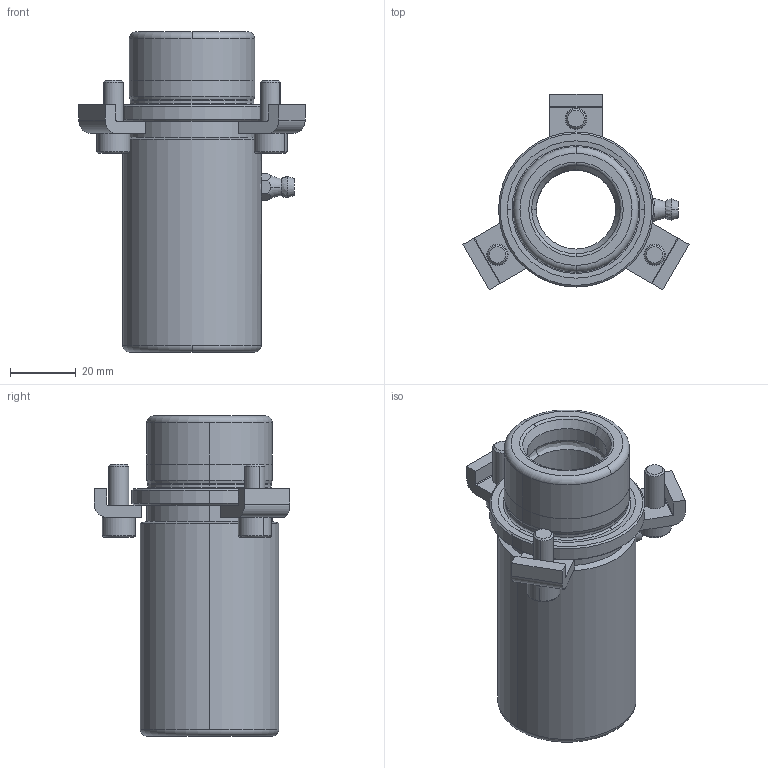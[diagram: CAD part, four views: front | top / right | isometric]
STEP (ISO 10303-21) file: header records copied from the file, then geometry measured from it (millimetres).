
FILE_DESCRIPTION((''),'2;1');
FILE_NAME('B10_024_075.stp','2008-11-04T16:52:06',(''),(''),'Mechanical Desktop 2009','Mechanical Desktop 2009',', , ');
FILE_SCHEMA(('CONFIG_CONTROL_DESIGN'));
Length unit declared in the file: millimetre
Products named in the file (2): Product; blmdl1
Assembly tree (1 placements, depth 2):
  Product
    blmdl1
Bounding box: 68.57 x 59.38 x 97 mm (x, y, z)
Volume: 89778.8 mm3; surface area: 27631.2 mm2
Topology: 8 solids, 8 shells, 170 faces, 427 edges, 280 vertices
Faces by surface type: plane 68, cylinder 48, cone 22, bspline 16, torus 16
Entity records: 6342 total; most frequent: CARTESIAN_POINT 2052, DIRECTION 933, ORIENTED_EDGE 846, EDGE_CURVE 423, AXIS2_PLACEMENT_3D 371, VERTEX_POINT 278, CIRCLE 215, VECTOR 191
